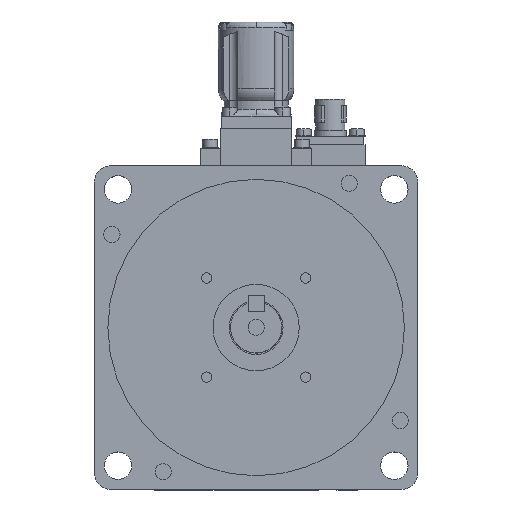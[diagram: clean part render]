
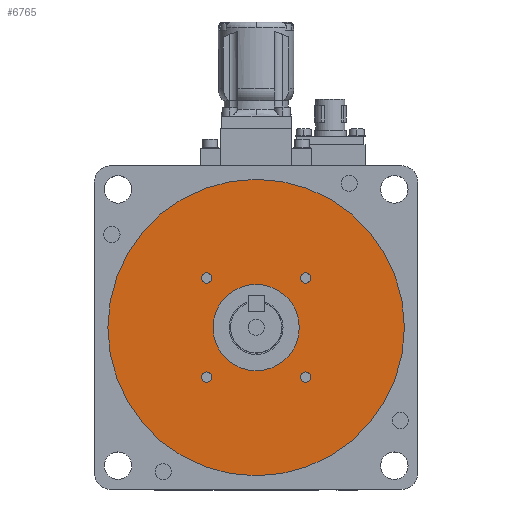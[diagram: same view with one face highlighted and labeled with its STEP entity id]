
A CAD part, top view. The second image highlights one B-rep face of the part: STEP entity #6765.
In plain terms, the highlighted planar face has unit normal (0, 0, 1).
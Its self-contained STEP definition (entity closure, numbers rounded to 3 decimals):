
#2259 = VERTEX_POINT ( 'NONE', #10177 ) ;
#2269 = VERTEX_POINT ( 'NONE', #10156 ) ;
#2272 = EDGE_CURVE ( 'NONE', #2269, #2259, #10154, .T. ) ;
#2305 = VERTEX_POINT ( 'NONE', #10232 ) ;
#2341 = EDGE_CURVE ( 'NONE', #2342, #2305, #10304, .T. ) ;
#2342 = VERTEX_POINT ( 'NONE', #10299 ) ;
#3501 = VERTEX_POINT ( 'NONE', #12215 ) ;
#3507 = VERTEX_POINT ( 'NONE', #12204 ) ;
#3558 = EDGE_CURVE ( 'NONE', #3560, #3615, #12312, .T. ) ;
#3560 = VERTEX_POINT ( 'NONE', #12304 ) ;
#3615 = VERTEX_POINT ( 'NONE', #12419 ) ;
#3635 = EDGE_CURVE ( 'NONE', #3501, #3507, #12402, .T. ) ;
#3795 = EDGE_CURVE ( 'NONE', #3838, #3799, #12660, .T. ) ;
#3799 = VERTEX_POINT ( 'NONE', #12646 ) ;
#3838 = VERTEX_POINT ( 'NONE', #12715 ) ;
#6687 = ORIENTED_EDGE ( 'NONE', *, *, #6688, .F. ) ;
#6688 = EDGE_CURVE ( 'NONE', #3507, #3501, #19015, .T. ) ;
#6689 = ORIENTED_EDGE ( 'NONE', *, *, #3635, .F. ) ;
#6690 = EDGE_LOOP ( 'NONE', ( #6691, #6746 ) ) ;
#6691 = ORIENTED_EDGE ( 'NONE', *, *, #6745, .F. ) ;
#6733 = ORIENTED_EDGE ( 'NONE', *, *, #2272, .F. ) ;
#6734 = ORIENTED_EDGE ( 'NONE', *, *, #6735, .F. ) ;
#6735 = EDGE_CURVE ( 'NONE', #2259, #2269, #19082, .T. ) ;
#6745 = EDGE_CURVE ( 'NONE', #3615, #3560, #19060, .T. ) ;
#6746 = ORIENTED_EDGE ( 'NONE', *, *, #3558, .F. ) ;
#6747 = EDGE_LOOP ( 'NONE', ( #6748, #6750 ) ) ;
#6748 = ORIENTED_EDGE ( 'NONE', *, *, #6749, .F. ) ;
#6749 = EDGE_CURVE ( 'NONE', #3799, #3838, #19124, .T. ) ;
#6750 = ORIENTED_EDGE ( 'NONE', *, *, #3795, .F. ) ;
#6752 = EDGE_LOOP ( 'NONE', ( #6753, #6755 ) ) ;
#6753 = ORIENTED_EDGE ( 'NONE', *, *, #6754, .F. ) ;
#6754 = EDGE_CURVE ( 'NONE', #9376, #8936, #19113, .T. ) ;
#6755 = ORIENTED_EDGE ( 'NONE', *, *, #9413, .F. ) ;
#6756 = EDGE_LOOP ( 'NONE', ( #6757, #6758 ) ) ;
#6757 = ORIENTED_EDGE ( 'NONE', *, *, #6761, .T. ) ;
#6758 = ORIENTED_EDGE ( 'NONE', *, *, #2341, .T. ) ;
#6759 = EDGE_LOOP ( 'NONE', ( #6733, #6734 ) ) ;
#6761 = EDGE_CURVE ( 'NONE', #2305, #2342, #19108, .T. ) ;
#6765 = ADVANCED_FACE ( 'NONE', ( #19098, #19097, #19096, #19095, #19094, #19093 ), #19091, .T. ) ;
#6766 = EDGE_LOOP ( 'NONE', ( #6687, #6689 ) ) ;
#8936 = VERTEX_POINT ( 'NONE', #20867 ) ;
#9376 = VERTEX_POINT ( 'NONE', #20938 ) ;
#9413 = EDGE_CURVE ( 'NONE', #8936, #9376, #20937, .T. ) ;
#10153 = CARTESIAN_POINT ( 'NONE',  ( 0., 0., 3.5 ) ) ;
#10154 = CIRCLE ( 'NONE', #10216, 55. ) ;
#10156 = CARTESIAN_POINT ( 'NONE',  ( -55., 0., 3.5 ) ) ;
#10177 = CARTESIAN_POINT ( 'NONE',  ( 55., 0., 3.5 ) ) ;
#10214 = DIRECTION ( 'NONE',  ( -1., 0., 0. ) ) ;
#10215 = DIRECTION ( 'NONE',  ( 0., 0., -1. ) ) ;
#10216 = AXIS2_PLACEMENT_3D ( 'NONE', #10153, #10215, #10214 ) ;
#10232 = CARTESIAN_POINT ( 'NONE',  ( -16., 0., 3.5 ) ) ;
#10299 = CARTESIAN_POINT ( 'NONE',  ( 16., 0., 3.5 ) ) ;
#10300 = DIRECTION ( 'NONE',  ( -1., 0., 0. ) ) ;
#10301 = DIRECTION ( 'NONE',  ( 0., 0., -1. ) ) ;
#10302 = CARTESIAN_POINT ( 'NONE',  ( 0., 0., 3.5 ) ) ;
#10303 = AXIS2_PLACEMENT_3D ( 'NONE', #10302, #10301, #10300 ) ;
#10304 = CIRCLE ( 'NONE', #10303, 16. ) ;
#12204 = CARTESIAN_POINT ( 'NONE',  ( 20.285, -18.385, 3.5 ) ) ;
#12215 = CARTESIAN_POINT ( 'NONE',  ( 16.485, -18.385, 3.5 ) ) ;
#12304 = CARTESIAN_POINT ( 'NONE',  ( -20.285, -18.385, 3.5 ) ) ;
#12308 = DIRECTION ( 'NONE',  ( -1., 0., 0. ) ) ;
#12309 = DIRECTION ( 'NONE',  ( 0., 0., 1. ) ) ;
#12310 = CARTESIAN_POINT ( 'NONE',  ( -18.385, -18.385, 3.5 ) ) ;
#12311 = AXIS2_PLACEMENT_3D ( 'NONE', #12310, #12309, #12308 ) ;
#12312 = CIRCLE ( 'NONE', #12311, 1.9 ) ;
#12399 = DIRECTION ( 'NONE',  ( 0., -1., 0. ) ) ;
#12400 = DIRECTION ( 'NONE',  ( 0., 0., 1. ) ) ;
#12401 = AXIS2_PLACEMENT_3D ( 'NONE', #12408, #12400, #12399 ) ;
#12402 = CIRCLE ( 'NONE', #12401, 1.9 ) ;
#12408 = CARTESIAN_POINT ( 'NONE',  ( 18.385, -18.385, 3.5 ) ) ;
#12419 = CARTESIAN_POINT ( 'NONE',  ( -16.485, -18.385, 3.5 ) ) ;
#12646 = CARTESIAN_POINT ( 'NONE',  ( -16.485, 18.385, 3.5 ) ) ;
#12656 = DIRECTION ( 'NONE',  ( 0., 1., 0. ) ) ;
#12657 = DIRECTION ( 'NONE',  ( 0., 0., 1. ) ) ;
#12658 = CARTESIAN_POINT ( 'NONE',  ( -18.385, 18.385, 3.5 ) ) ;
#12659 = AXIS2_PLACEMENT_3D ( 'NONE', #12658, #12657, #12656 ) ;
#12660 = CIRCLE ( 'NONE', #12659, 1.9 ) ;
#12715 = CARTESIAN_POINT ( 'NONE',  ( -20.285, 18.385, 3.5 ) ) ;
#19011 = DIRECTION ( 'NONE',  ( 0., -1., 0. ) ) ;
#19012 = DIRECTION ( 'NONE',  ( 0., 0., 1. ) ) ;
#19013 = CARTESIAN_POINT ( 'NONE',  ( 18.385, -18.385, 3.5 ) ) ;
#19014 = AXIS2_PLACEMENT_3D ( 'NONE', #19013, #19012, #19011 ) ;
#19015 = CIRCLE ( 'NONE', #19014, 1.9 ) ;
#19056 = DIRECTION ( 'NONE',  ( -1., 0., 0. ) ) ;
#19057 = DIRECTION ( 'NONE',  ( 0., 0., 1. ) ) ;
#19058 = CARTESIAN_POINT ( 'NONE',  ( -18.385, -18.385, 3.5 ) ) ;
#19059 = AXIS2_PLACEMENT_3D ( 'NONE', #19058, #19057, #19056 ) ;
#19060 = CIRCLE ( 'NONE', #19059, 1.9 ) ;
#19074 = DIRECTION ( 'NONE',  ( -1., 0., 0. ) ) ;
#19075 = DIRECTION ( 'NONE',  ( 0., 0., -1. ) ) ;
#19076 = CARTESIAN_POINT ( 'NONE',  ( 0., 0., 3.5 ) ) ;
#19077 = AXIS2_PLACEMENT_3D ( 'NONE', #19076, #19075, #19074 ) ;
#19082 = CIRCLE ( 'NONE', #19077, 55. ) ;
#19089 = CARTESIAN_POINT ( 'NONE',  ( 0., 55., 3.5 ) ) ;
#19090 = AXIS2_PLACEMENT_3D ( 'NONE', #19089, #19157, #19156 ) ;
#19091 = PLANE ( 'NONE',  #19090 ) ;
#19093 = FACE_OUTER_BOUND ( 'NONE', #6759, .T. ) ;
#19094 = FACE_BOUND ( 'NONE', #6756, .T. ) ;
#19095 = FACE_BOUND ( 'NONE', #6752, .T. ) ;
#19096 = FACE_BOUND ( 'NONE', #6747, .T. ) ;
#19097 = FACE_BOUND ( 'NONE', #6690, .T. ) ;
#19098 = FACE_BOUND ( 'NONE', #6766, .T. ) ;
#19104 = DIRECTION ( 'NONE',  ( -1., 0., 0. ) ) ;
#19105 = DIRECTION ( 'NONE',  ( 0., 0., -1. ) ) ;
#19106 = CARTESIAN_POINT ( 'NONE',  ( 0., 0., 3.5 ) ) ;
#19107 = AXIS2_PLACEMENT_3D ( 'NONE', #19106, #19105, #19104 ) ;
#19108 = CIRCLE ( 'NONE', #19107, 16. ) ;
#19109 = DIRECTION ( 'NONE',  ( 1., 0., 0. ) ) ;
#19110 = DIRECTION ( 'NONE',  ( 0., 0., 1. ) ) ;
#19111 = CARTESIAN_POINT ( 'NONE',  ( 18.385, 18.385, 3.5 ) ) ;
#19112 = AXIS2_PLACEMENT_3D ( 'NONE', #19111, #19110, #19109 ) ;
#19113 = CIRCLE ( 'NONE', #19112, 1.9 ) ;
#19120 = DIRECTION ( 'NONE',  ( 0., 1., 0. ) ) ;
#19121 = DIRECTION ( 'NONE',  ( 0., 0., 1. ) ) ;
#19122 = CARTESIAN_POINT ( 'NONE',  ( -18.385, 18.385, 3.5 ) ) ;
#19123 = AXIS2_PLACEMENT_3D ( 'NONE', #19122, #19121, #19120 ) ;
#19124 = CIRCLE ( 'NONE', #19123, 1.9 ) ;
#19156 = DIRECTION ( 'NONE',  ( 1., 0., 0. ) ) ;
#19157 = DIRECTION ( 'NONE',  ( 0., 0., 1. ) ) ;
#20867 = CARTESIAN_POINT ( 'NONE',  ( 16.485, 18.385, 3.5 ) ) ;
#20933 = DIRECTION ( 'NONE',  ( 1., 0., 0. ) ) ;
#20934 = DIRECTION ( 'NONE',  ( 0., 0., 1. ) ) ;
#20935 = CARTESIAN_POINT ( 'NONE',  ( 18.385, 18.385, 3.5 ) ) ;
#20936 = AXIS2_PLACEMENT_3D ( 'NONE', #20935, #20934, #20933 ) ;
#20937 = CIRCLE ( 'NONE', #20936, 1.9 ) ;
#20938 = CARTESIAN_POINT ( 'NONE',  ( 20.285, 18.385, 3.5 ) ) ;
